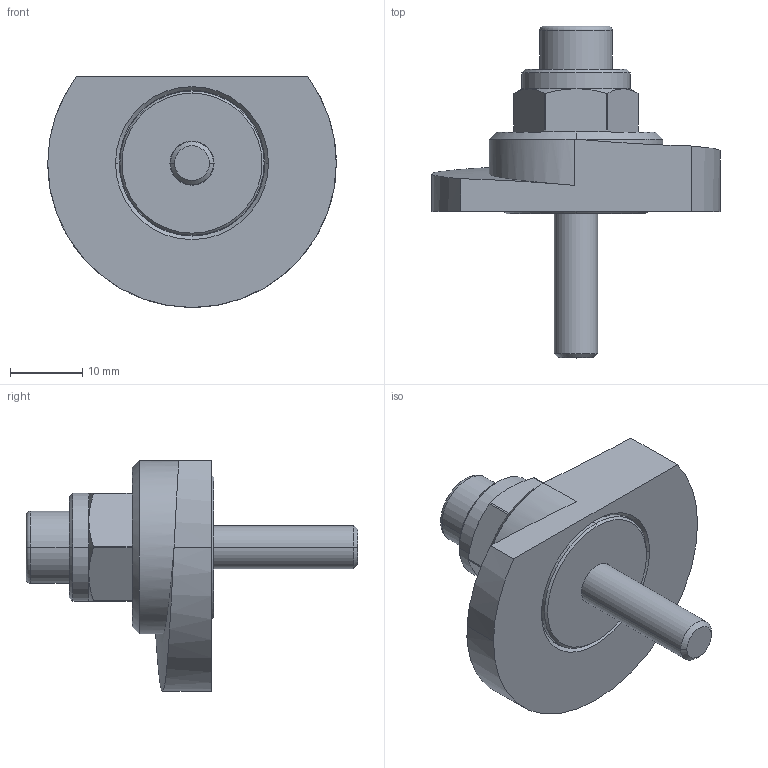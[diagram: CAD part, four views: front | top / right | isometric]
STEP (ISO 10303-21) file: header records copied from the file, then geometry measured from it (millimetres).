
FILE_DESCRIPTION (( 'STEP AP214' ), '1' );
FILE_NAME ('918.1-40-SKS-L-20.step', '2024-05-15T13:00:44', ( '' ), ( '' ), 'SwSTEP 2.0', 'SolidWorks 2022', '' );
FILE_SCHEMA (( 'AUTOMOTIVE_DESIGN' ));
Length unit declared in the file: millimetre
Products named in the file (1): 918.1-40-SKS-L-20
Bounding box: 40 x 46 x 32 mm (x, y, z)
Volume: 11515.5 mm3; surface area: 6585.4 mm2
Topology: 1 solids, 2 shells, 80 faces, 179 edges, 112 vertices
Faces by surface type: cylinder 27, plane 26, cone 22, bspline 3, torus 2
Entity records: 2599 total; most frequent: CARTESIAN_POINT 777, DIRECTION 390, ORIENTED_EDGE 358, EDGE_CURVE 179, AXIS2_PLACEMENT_3D 157, VERTEX_POINT 112, EDGE_LOOP 91, FACE_OUTER_BOUND 80
